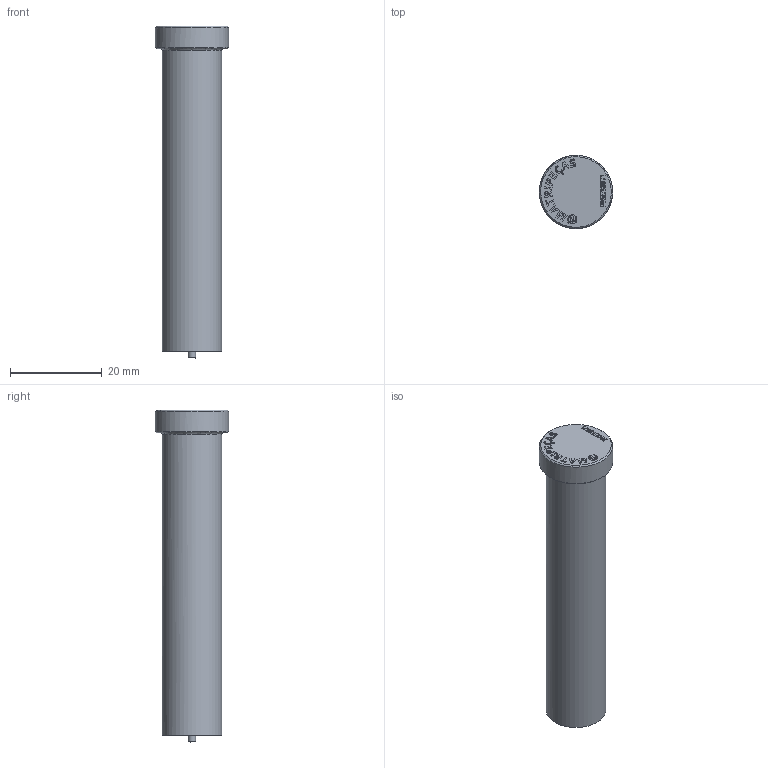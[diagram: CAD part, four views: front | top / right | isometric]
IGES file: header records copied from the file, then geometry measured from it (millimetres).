
Start section: C
Global section: file name: PNIE13071.igs; native system: By Siemens PLM Incorporated; preprocessor: XPlus GENERIC/IGES 18.0.17; author: Author; organization: Title; date: 20240726.170403; units: millimetre
Bounding box: 16 x 15.99 x 72.5 mm (x, y, z)
Volume: 9807.5 mm3; surface area: 3352.5 mm2
Topology: 1 solids, 1 shells, 266 faces, 704 edges, 469 vertices
Faces by surface type: bspline 266
